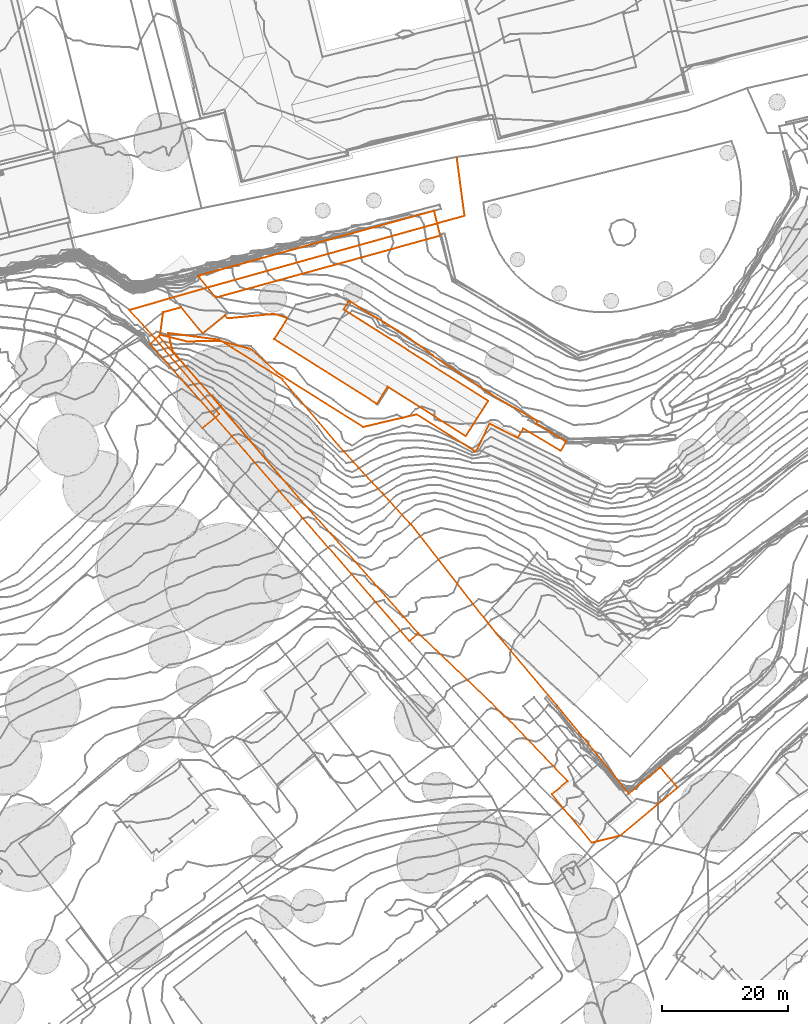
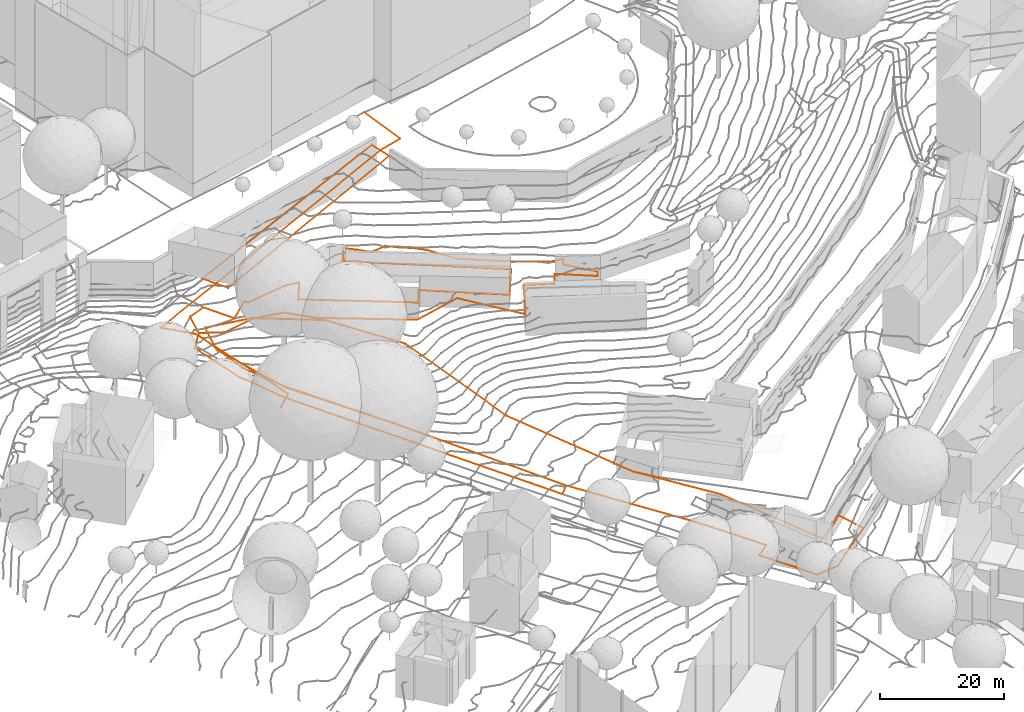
# Not in any storey, part 180 of 494: 8 proxies.
"""IFC2X3 model written with IfcOpenShell, lengths in metres."""

from ifc_helpers import new_model, entity, si_unit, frame, origin_with_axes, place, context, subcontext, project, element, save


model = new_model("IFC2X3")

# Units and contexts
model_context = context("Model", 3, precision=1e-05, world=origin_with_axes())
body_context = subcontext(model_context, "Body", "Model", "MODEL_VIEW")
ifc_project = project(units=[si_unit("AREAUNIT", "SQUARE_METRE"), si_unit("LENGTHUNIT", "METRE")], contexts=[model_context])

# Proxies
proxy_1_placement = place(None, frame((372.3517320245, 311.1767336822, 529.954), z_axis=(0.0, 0.0, 1.0), x_axis=(1.0, 0.0, 0.0)))
element("IfcBuildingElementProxy", 1, at=proxy_1_placement, Name="Road 21", ObjectType="NOTDEFINED", context=body_context, shape_type="GeometricCurveSet", body=[
    entity("IfcGeometricCurveSet", [entity("IfcPolyline", [entity("IfcCartesianPoint", [0.0, 0.0, 0.0]), entity("IfcCartesianPoint", [10.2710000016, -12.1119996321, -8.021])])]),
])
proxy_2_placement = place(None, frame((379.9787320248, 296.8617341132, 521.603), z_axis=(0.0, 0.0, 1.0), x_axis=(1.0, 0.0, 0.0)))
element("IfcBuildingElementProxy", 2, at=proxy_2_placement, Name="Road 23", ObjectType="NOTDEFINED", context=body_context, shape_type="GeometricCurveSet", body=[
    entity("IfcGeometricCurveSet", [entity("IfcPolyline", [entity("IfcCartesianPoint", [2.6440000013, 2.2029999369, 0.33]), entity("IfcCartesianPoint", [0.0, 0.0, 0.0])])]),
])
proxy_3_placement = place(None, frame((368.3997320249, 315.535733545, 529.875), z_axis=(0.0, 0.0, 1.0), x_axis=(1.0, 0.0, 0.0)))
element("IfcBuildingElementProxy", 3, at=proxy_3_placement, Name="Road 172", ObjectType="NOTDEFINED", context=body_context, shape_type="GeometricCurveSet", body=[
    entity("IfcGeometricCurveSet", [entity("IfcPolyline", [entity("IfcCartesianPoint", [51.8110000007, 24.2199992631, 9.463]), entity("IfcCartesianPoint", [53.0580000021, 14.9029995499, 9.521]), entity("IfcCartesianPoint", [48.8249999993, 13.7389995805, 9.472]), entity("IfcCartesianPoint", [12.8420000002, 3.6849998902, 2.324]), entity("IfcCartesianPoint", [0.0, 0.0, 0.0])])]),
])
proxy_4_placement = place(None, frame((368.3997320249, 315.535733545, 529.875), z_axis=(0.0, 0.0, 1.0), x_axis=(1.0, 0.0, 0.0)))
element("IfcBuildingElementProxy", 4, at=proxy_4_placement, Name="Road 199", ObjectType="NOTDEFINED", context=body_context, shape_type="GeometricCurveSet", body=[
    entity("IfcGeometricCurveSet", [entity("IfcPolyline", [entity("IfcCartesianPoint", [0.0, 0.0, 0.0]), entity("IfcCartesianPoint", [3.9519999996, -4.3589998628, 0.079])])]),
])
proxy_5_placement = place(None, frame((371.7027320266, 310.1607160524, 527.9286661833), z_axis=(0.0, 0.0, 1.0), x_axis=(1.0, 0.0, 0.0)))
element("IfcBuildingElementProxy", 5, at=proxy_5_placement, Name="Roads Outline 44", ObjectType="NOTDEFINED", context=body_context, shape_type="GeometricCurveSet", body=[
    entity("IfcGeometricCurveSet", [entity("IfcPolyline", [entity("IfcCartesianPoint", [0.0, 0.0, 0.0]), entity("IfcCartesianPoint", [1.3470000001, 1.2679999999, 1.4310914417]), entity("IfcCartesianPoint", [6.2520000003, -4.3389999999, -3.4114846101]), entity("IfcCartesianPoint", [7.4180000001, -5.625, -3.8790932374]), entity("IfcCartesianPoint", [11.1750000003, -9.852, -5.4338645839]), entity("IfcCartesianPoint", [23.5010000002, -24.298, -8.407283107]), entity("IfcCartesianPoint", [42.4199999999, -45.798, -13.9791657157]), entity("IfcCartesianPoint", [41.0649999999, -47.02, -14.4722142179]), entity("IfcCartesianPoint", [37.557, -43.034, -13.5104753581]), entity("IfcCartesianPoint", [15.0070000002, -16.96, -7.6164220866]), entity("IfcCartesianPoint", [9.855, -11.121, -6.1952486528]), entity("IfcCartesianPoint", [6.0649999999, -6.8740000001, -4.3616408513]), entity("IfcCartesianPoint", [4.926, -5.5899999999, -3.9453839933]), entity("IfcCartesianPoint", [0.0, 0.0, 0.0])])]),
])
proxy_6_placement = place(None, frame((373.2467320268, 311.6137160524, 529.5305332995), z_axis=(0.0, 0.0, 1.0), x_axis=(1.0, 0.0, 0.0)))
element("IfcBuildingElementProxy", 6, at=proxy_6_placement, Name="Roads Outline 45", ObjectType="NOTDEFINED", context=body_context, shape_type="GeometricCurveSet", body=[
    entity("IfcGeometricCurveSet", [entity("IfcPolyline", [entity("IfcCartesianPoint", [0.0, 0.0, 0.0]), entity("IfcCartesianPoint", [0.4789999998, 3.5600000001, 0.9023297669]), entity("IfcCartesianPoint", [3.361, 4.3560000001, 1.2146872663]), entity("IfcCartesianPoint", [6.7369999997, 0.2290000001, 0.378688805]), entity("IfcCartesianPoint", [10.2590000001, 3.1170000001, 0.7285074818]), entity("IfcCartesianPoint", [10.6949999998, 2.5970000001, 0.7046718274]), entity("IfcCartesianPoint", [18.0860000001, 3.301, 1.06152026]), entity("IfcCartesianPoint", [20.1779999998, 2.6240000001, 1.277920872]), entity("IfcCartesianPoint", [18.0809999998, -0.699, 0.6786677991]), entity("IfcCartesianPoint", [34.3119999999, -10.9469999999, 0.632799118]), entity("IfcCartesianPoint", [36.02, -8.2409999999, 0.8501358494]), entity("IfcCartesianPoint", [48.3849999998, -16.067, 0.3198680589]), entity("IfcCartesianPoint", [51.9279999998, -10.4790000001, 0.7001259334]), entity("IfcCartesianPoint", [29.0469999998, 3.99, 1.5631749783]), entity("IfcCartesianPoint", [29.662, 4.9620000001, 2.2853450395]), entity("IfcCartesianPoint", [29.7889999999, 5.189, 2.6239416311]), entity("IfcCartesianPoint", [29.926, 5.3630000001, 2.9428699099]), entity("IfcCartesianPoint", [31.8130000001, 4.149, 2.6788341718]), entity("IfcCartesianPoint", [33.7239999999, 2.9750000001, 2.2796657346]), entity("IfcCartesianPoint", [35.659, 1.8400000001, 3.4460614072]), entity("IfcCartesianPoint", [37.5860000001, 0.6610000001, 3.2515237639]), entity("IfcCartesianPoint", [39.4709999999, -0.5819999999, 3.1934246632]), entity("IfcCartesianPoint", [41.3130000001, -1.889, 2.9388151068]), entity("IfcCartesianPoint", [43.1099999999, -3.257, 2.3573963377]), entity("IfcCartesianPoint", [45.1799999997, -4.723, 1.6230234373]), entity("IfcCartesianPoint", [48.9240000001, -7.142, 1.4870848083]), entity("IfcCartesianPoint", [52.5269999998, -9.54, 1.4625364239]), entity("IfcCartesianPoint", [58.1510000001, -12.781, 1.4491642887]), entity("IfcCartesianPoint", [59.7679999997, -13.6739999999, 1.9048984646]), entity("IfcCartesianPoint", [59.5219999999, -14.0859999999, 1.1385341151]), entity("IfcCartesianPoint", [64.2859999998, -16.932, -0.1596573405]), entity("IfcCartesianPoint", [63.4189999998, -18.3829999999, 0.1276729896]), entity("IfcCartesianPoint", [57.5090000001, -14.852, 0.477162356]), entity("IfcCartesianPoint", [56.6000000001, -16.3199999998, -0.1702712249]), entity("IfcCartesianPoint", [52.1379999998, -14.0969999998, -0.2635513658]), entity("IfcCartesianPoint", [50.23, -18.0619999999, -2.1718628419]), entity("IfcCartesianPoint", [49.8789999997, -18.4839999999, -2.5480610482]), entity("IfcCartesianPoint", [40.639, -12.6189999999, 0.2625148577]), entity("IfcCartesianPoint", [32.1060000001, -14.612, 0.2349668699]), entity("IfcCartesianPoint", [18.4929999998, -6.017, 0.1242155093]), entity("IfcCartesianPoint", [14.4449999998, -2.318, 0.3725350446]), entity("IfcCartesianPoint", [9.5350000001, -0.9839999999, 0.0870467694]), entity("IfcCartesianPoint", [4.1839999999, -1.067, -0.6657916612]), entity("IfcCartesianPoint", [0.0, 0.0, 0.0])])]),
])
proxy_7_placement = place(None, frame((379.2387320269, 320.9497160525, 532.4720985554), z_axis=(0.0, 0.0, 1.0), x_axis=(1.0, 0.0, 0.0)))
element("IfcBuildingElementProxy", 7, at=proxy_7_placement, Name="Roads Outline 139", ObjectType="NOTDEFINED", context=body_context, shape_type="GeometricCurveSet", body=[
    entity("IfcGeometricCurveSet", [entity("IfcPolyline", [entity("IfcCartesianPoint", [0.0, 0.0, 0.0]), entity("IfcCartesianPoint", [37.3909999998, 10.2949999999, 6.8997516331]), entity("IfcCartesianPoint", [38.361, 6.345, 6.787654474]), entity("IfcCartesianPoint", [2.8319999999, -3.47, -0.7190762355]), entity("IfcCartesianPoint", [0.0, 0.0, 0.0])])]),
])
proxy_8_placement = place(None, frame((374.5457320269, 311.8737160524, 529.9518179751), z_axis=(0.0, 0.0, 1.0), x_axis=(1.0, 0.0, 0.0)))
element("IfcBuildingElementProxy", 8, at=proxy_8_placement, Name="Cadastre 41", ObjectType="NOTDEFINED", context=body_context, shape_type="GeometricCurveSet", body=[
    entity("IfcGeometricCurveSet", [entity("IfcPolyline", [entity("IfcCartesianPoint", [0.0, 0.0, 0.0]), entity("IfcCartesianPoint", [8.0289999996, -1.0549999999, -0.2822916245]), entity("IfcCartesianPoint", [18.068, -7.3299999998, -0.3783242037]), entity("IfcCartesianPoint", [26.997, -17.8299999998, -1.8094993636]), entity("IfcCartesianPoint", [33.8969999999, -25.3599999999, -8.1572760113]), entity("IfcCartesianPoint", [38.4469999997, -30.28, -12.3378104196]), entity("IfcCartesianPoint", [51.9759999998, -47.601, -17.5455414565]), entity("IfcCartesianPoint", [61.5749999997, -58.9709999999, -18.435897]), entity("IfcCartesianPoint", [72.9639999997, -72.871, -22.9119797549]), entity("IfcCartesianPoint", [77.9139999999, -68.7109999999, -22.4447736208]), entity("IfcCartesianPoint", [80.6429999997, -71.9609999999, -23.8559324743]), entity("IfcCartesianPoint", [71.5549999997, -79.571, -23.4679018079]), entity("IfcCartesianPoint", [67.0459999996, -80.6850000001, -22.9967542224]), entity("IfcCartesianPoint", [60.7379999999, -72.9679999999, -21.6391776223]), entity("IfcCartesianPoint", [63.25, -70.9099999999, -21.797701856]), entity("IfcCartesianPoint", [55.0059999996, -62.311, -19.5543510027]), entity("IfcCartesianPoint", [39.5769999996, -47.5109999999, -16.0023175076]), entity("IfcCartesianPoint", [20.6579999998, -26.0109999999, -10.4304348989]), entity("IfcCartesianPoint", [8.2909999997, -11.642, -7.5726997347]), entity("IfcCartesianPoint", [0.6899999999, -2.8100000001, -3.0045351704]), entity("IfcCartesianPoint", [0.0, 0.0, 0.0])])]),
])

save(model, "model.ifc")
